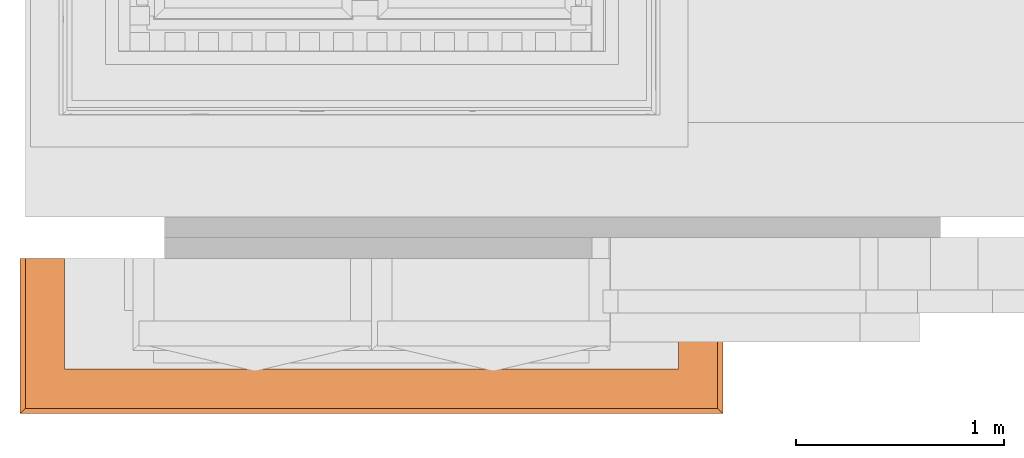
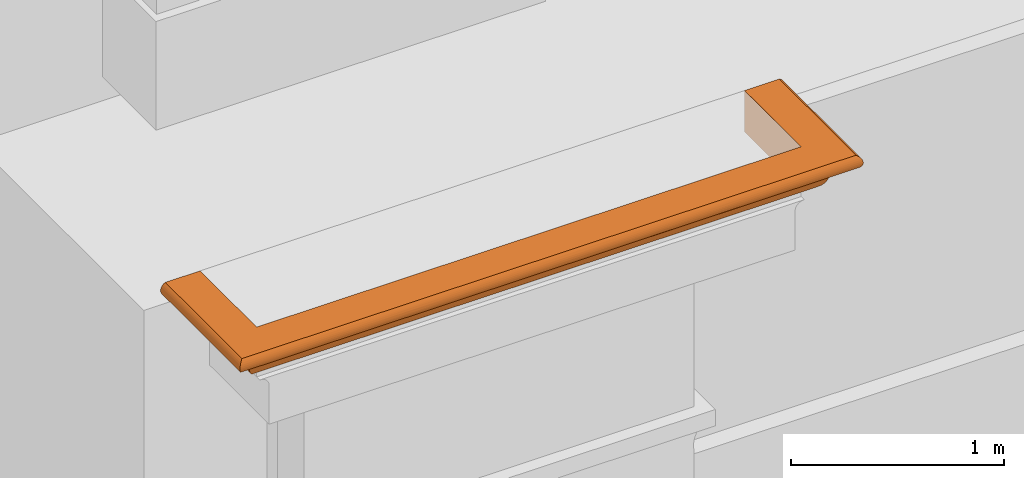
# One storey, part 20 of 44: 1 proxy.
"""IFC2X3 building model written with IfcOpenShell, lengths in metres."""

from ifc_helpers import new_model, entity, si_unit, converted_unit, derived_unit, direction, frame, origin, place, context, subcontext, project, spatial, faceted_brep, material, element, save


model = new_model("IFC2X3")

# Units and contexts
model_context = context("Model", 3, precision=1e-05, world=origin(), true_north=direction((6.12303176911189e-17, 1.0)))
body_context = subcontext(model_context, "Body", "Model", "MODEL_VIEW")
ifc_project = project(units=[si_unit("LENGTHUNIT", "METRE"), si_unit("AREAUNIT", "SQUARE_METRE"), si_unit("VOLUMEUNIT", "CUBIC_METRE"), converted_unit("PLANEANGLEUNIT", "DEGREE", entity("IfcRatioMeasure", 0.0174532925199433), si_unit("PLANEANGLEUNIT", "RADIAN"), dimensions=[0, 0, 0, 0, 0, 0, 0]), si_unit("MASSUNIT", "GRAM", prefix="KILO"), derived_unit("MASSDENSITYUNIT", [(si_unit("MASSUNIT", "GRAM", prefix="KILO"), 1), (si_unit("LENGTHUNIT", "METRE"), -3)]), si_unit("TIMEUNIT", "SECOND"), si_unit("FREQUENCYUNIT", "HERTZ"), si_unit("THERMODYNAMICTEMPERATUREUNIT", "DEGREE_CELSIUS"), derived_unit("THERMALTRANSMITTANCEUNIT", [(si_unit("MASSUNIT", "GRAM", prefix="KILO"), 1), (si_unit("THERMODYNAMICTEMPERATUREUNIT", "KELVIN"), -1), (si_unit("TIMEUNIT", "SECOND"), -3)]), derived_unit("VOLUMETRICFLOWRATEUNIT", [(si_unit("LENGTHUNIT", "METRE"), 3), (si_unit("TIMEUNIT", "SECOND"), -1)]), si_unit("ELECTRICCURRENTUNIT", "AMPERE"), si_unit("ELECTRICVOLTAGEUNIT", "VOLT"), si_unit("POWERUNIT", "WATT"), si_unit("FORCEUNIT", "NEWTON", prefix="KILO"), si_unit("ILLUMINANCEUNIT", "LUX"), si_unit("LUMINOUSFLUXUNIT", "LUMEN"), si_unit("LUMINOUSINTENSITYUNIT", "CANDELA"), derived_unit("USERDEFINED", [(si_unit("MASSUNIT", "GRAM", prefix="KILO"), -1), (si_unit("LENGTHUNIT", "METRE"), -2), (si_unit("TIMEUNIT", "SECOND"), 3), (si_unit("LUMINOUSFLUXUNIT", "LUMEN"), 1)]), derived_unit("LINEARVELOCITYUNIT", [(si_unit("LENGTHUNIT", "METRE"), 1), (si_unit("TIMEUNIT", "SECOND"), -1)]), si_unit("PRESSUREUNIT", "PASCAL"), derived_unit("USERDEFINED", [(si_unit("LENGTHUNIT", "METRE"), -2), (si_unit("MASSUNIT", "GRAM", prefix="KILO"), 1), (si_unit("TIMEUNIT", "SECOND"), -2)])], contexts=[model_context])

# Site, building, storey
site_placement = place(None, origin())
site = spatial("IfcSite", under=ifc_project, at=site_placement, Name="Default", CompositionType="ELEMENT")
building_placement = place(site_placement, origin())
building = spatial("IfcBuilding", under=site, at=building_placement, CompositionType="ELEMENT")
storey_placement = place(building_placement, origin())
storey = spatial("IfcBuildingStorey", under=building, at=storey_placement, Name="Livello 1", CompositionType="ELEMENT", Elevation=0.0)

# Proxy
ifc_material = material(Name="Piperno")
proxy_placement = place(storey_placement, frame((-12.1498368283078, -1.07986931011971, 13.1103778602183)))
element("IfcBuildingElementProxy", 1, at=proxy_placement, inside=storey, material=ifc_material, Name="Stratigrafia", context=body_context, shape_type="Brep", body=[
    faceted_brep([(0.165576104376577, 0.745401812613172, 0.0186018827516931), (0.14545932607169, 0.745401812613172, 0.035910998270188), (0.130346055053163, 0.745401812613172, 0.0577256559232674), (0.121209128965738, 0.745401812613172, 0.0826416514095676), (0.112072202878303, 0.745401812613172, 0.107557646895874), (0.0969589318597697, 0.745401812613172, 0.129372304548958), (0.0768421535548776, 0.745401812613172, 0.146681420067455), (0.0530167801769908, 0.745401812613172, 0.158370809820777), (0.0270164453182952, 0.745401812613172, 0.163688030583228), (0.0185949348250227, 0.745401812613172, 0.168211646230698), (0.0114870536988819, 0.745401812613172, 0.174604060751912), (0.00609865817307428, 0.745401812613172, 0.182500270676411), (0.00273742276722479, 0.745401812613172, 0.19144940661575), (0.0015952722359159, 0.745401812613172, 0.200940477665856), (0.00273742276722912, 0.745401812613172, 0.210431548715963), (0.00609865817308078, 0.745401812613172, 0.219380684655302), (0.0114870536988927, 0.745401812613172, 0.227276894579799), (0.0185949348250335, 0.745401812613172, 0.233669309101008), (0.0270164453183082, 0.745401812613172, 0.238192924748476), (0.21540181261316, 0.745401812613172, 0.238192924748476), (0.215401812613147, 0.745401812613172, 0.0015952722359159), (0.18940147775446, 0.745401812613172, 0.00691249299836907), (3.18620224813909, 0.745401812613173, 0.00691249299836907), (3.1602019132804, 0.745401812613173, 0.0015952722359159), (3.16020191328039, 0.745401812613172, 0.238192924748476), (3.34858728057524, 0.745401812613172, 0.238192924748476), (3.35700879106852, 0.745401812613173, 0.233669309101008), (3.36411667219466, 0.745401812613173, 0.227276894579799), (3.36950506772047, 0.745401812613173, 0.219380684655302), (3.37286630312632, 0.745401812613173, 0.210431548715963), (3.37400845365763, 0.745401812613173, 0.200940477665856), (3.37286630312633, 0.745401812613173, 0.19144940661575), (3.36950506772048, 0.745401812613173, 0.182500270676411), (3.36411667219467, 0.745401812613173, 0.174604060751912), (3.35700879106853, 0.745401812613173, 0.168211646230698), (3.34858728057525, 0.745401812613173, 0.163688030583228), (3.32258694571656, 0.745401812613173, 0.158370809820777), (3.29876157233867, 0.745401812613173, 0.146681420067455), (3.27864479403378, 0.745401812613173, 0.129372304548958), (3.26353152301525, 0.745401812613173, 0.107557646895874), (3.25439459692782, 0.745401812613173, 0.0826416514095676), (3.24525767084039, 0.745401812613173, 0.0577256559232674), (3.23014439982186, 0.745401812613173, 0.035910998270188), (3.21002762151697, 0.745401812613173, 0.0186018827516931), (0.0185949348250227, 0.0185949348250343, 0.168211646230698), (0.0148493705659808, 0.456874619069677, 0.171194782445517), (0.0208864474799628, 0.414126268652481, 0.166715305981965), (0.00844632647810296, 0.375750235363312, 0.178552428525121), (0.011487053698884, 0.0114870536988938, 0.174604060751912), (0.00609865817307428, 0.00609865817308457, 0.182500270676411), (0.0270164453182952, 0.524551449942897, 0.163688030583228), (0.0270164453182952, 0.303701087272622, 0.163688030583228), (0.00187803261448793, 0.284951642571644, 0.205688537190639), (0.00273742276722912, 0.00273742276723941, 0.210431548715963), (0.00412581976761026, 0.209841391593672, 0.214942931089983), (0.00188183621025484, 0.374069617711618, 0.196160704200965), (0.00411708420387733, 0.284986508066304, 0.186961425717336), (0.00273742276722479, 0.00273742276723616, 0.19144940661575), (0.0270164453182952, 0.0270164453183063, 0.163688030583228), (0.0015952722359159, 0.00159527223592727, 0.200940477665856), (0.00414977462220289, 0.541490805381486, 0.186874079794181), (0.0114870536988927, 0.011487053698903, 0.227276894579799), (0.0185949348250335, 0.0185949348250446, 0.233669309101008), (0.0148493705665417, 0.456874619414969, 0.230686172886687), (0.0208864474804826, 0.414126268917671, 0.235165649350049), (0.0270164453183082, 0.30370108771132, 0.238192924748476), (0.00188183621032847, 0.541480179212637, 0.205720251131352), (0.00844632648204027, 0.375750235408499, 0.223328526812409), (0.00609865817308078, 0.0060986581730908, 0.219380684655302), (0.00414977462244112, 0.467572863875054, 0.215006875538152), (0.0270164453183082, 0.524551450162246, 0.238192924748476), (0.0270164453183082, 0.0270164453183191, 0.238192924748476), (0.415713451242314, 0.0270164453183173, 0.238192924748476), (0.804400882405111, 0.0270164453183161, 0.238192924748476), (1.19308831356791, 0.0270164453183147, 0.238192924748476), (1.58178531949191, 0.0270164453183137, 0.238192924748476), (2.02348820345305, 0.0270164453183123, 0.238192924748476), (2.24433964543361, 0.0270164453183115, 0.238192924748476), (2.46519108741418, 0.0270164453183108, 0.238192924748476), (2.90689397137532, 0.0270164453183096, 0.238192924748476), (3.12774541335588, 0.0270164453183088, 0.238192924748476), (3.34858728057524, 0.0270164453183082, 0.238192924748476), (3.34858728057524, 0.38620912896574, 0.238192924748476), (3.16020191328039, 0.21540181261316, 0.238192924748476), (0.21540181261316, 0.21540181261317, 0.238192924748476), (0.215401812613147, 0.215401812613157, 0.0015952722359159), (0.18940147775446, 0.18940147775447, 0.00691249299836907), (0.165576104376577, 0.165576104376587, 0.0186018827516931), (0.14545932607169, 0.1454593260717, 0.035910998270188), (0.130346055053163, 0.130346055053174, 0.0577256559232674), (0.121209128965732, 0.121209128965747, 0.0826416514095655), (0.112072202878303, 0.112072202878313, 0.107557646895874), (0.0969589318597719, 0.0969589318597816, 0.129372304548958), (0.0768421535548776, 0.076842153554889, 0.146681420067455), (0.0530167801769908, 0.0530167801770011, 0.158370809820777), (0.508833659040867, 0.0206494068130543, 0.235021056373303), (0.254203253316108, 0.0147246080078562, 0.230573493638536), (0.539549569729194, 0.0145763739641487, 0.230438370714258), (2.79796429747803, 0.0145566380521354, 0.230420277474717), (2.75036000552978, 0.0210353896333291, 0.235255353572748), (2.49908268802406, 0.0164633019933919, 0.232062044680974), (3.37286630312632, 0.00273742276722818, 0.210431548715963), (3.36950506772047, 0.00609865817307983, 0.219380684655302), (3.13720502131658, 0.00412249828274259, 0.214934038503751), (0.260278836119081, 0.0211954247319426, 0.23535075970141), (1.5356934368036, 0.00180711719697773, 0.205052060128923), (1.24620172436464, 0.00203099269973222, 0.206828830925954), (1.44294342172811, 0.00186272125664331, 0.196322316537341), (3.10102620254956, 0.00187817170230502, 0.196191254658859), (3.37286630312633, 0.00273742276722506, 0.19144940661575), (3.37400845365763, 0.00159527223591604, 0.200940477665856), (0.288359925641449, 0.00847240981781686, 0.223367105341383), (0.637185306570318, 0.00719866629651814, 0.221359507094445), (3.04043173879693, 0.00845843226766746, 0.22334644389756), (2.85618743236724, 0.00408992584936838, 0.214846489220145), (0.871455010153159, 0.00359334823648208, 0.213425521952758), (0.988475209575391, 0.0082647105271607, 0.223057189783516), (3.11532488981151, 0.0211954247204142, 0.166530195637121), (3.35700879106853, 0.0185949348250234, 0.168211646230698), (3.12140047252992, 0.0147246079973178, 0.171307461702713), (2.38712851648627, 0.0082647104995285, 0.178823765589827), (2.73517018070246, 0.00743205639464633, 0.180133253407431), (2.51868391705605, 0.00389578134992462, 0.187569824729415), (2.98442469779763, 0.00410476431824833, 0.18699450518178), (3.36950506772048, 0.00609865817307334, 0.182500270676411), (0.27481159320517, 0.014713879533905, 0.171317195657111), (0.358291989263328, 0.0206619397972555, 0.166852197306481), (0.577639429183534, 0.0145566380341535, 0.171460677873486), (0.613079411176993, 0.00922003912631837, 0.177447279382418), (0.958215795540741, 0.0161108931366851, 0.17010688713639), (0.954239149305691, 0.00841953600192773, 0.178592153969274), (3.04717362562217, 0.00187745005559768, 0.205683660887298), (0.364143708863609, 0.00187697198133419, 0.196201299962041), (0.281518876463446, 0.00187807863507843, 0.205688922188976), (3.36411667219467, 0.0114870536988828, 0.174604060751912), (2.71018980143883, 0.00820855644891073, 0.222972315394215), (0.353330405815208, 0.00845301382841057, 0.178542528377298), (2.86677006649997, 0.0206494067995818, 0.166859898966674), (2.95989568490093, 0.0270164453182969, 0.163688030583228), (1.34393125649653, 0.00757258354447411, 0.2219767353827), (1.15446330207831, 0.00412650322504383, 0.214944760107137), (1.25458926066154, 0.0188476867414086, 0.168035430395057), (0.91041770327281, 0.0270164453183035, 0.16368803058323), (1.33069501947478, 0.0270164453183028, 0.163688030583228), (1.35211930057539, 0.0270164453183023, 0.163688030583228), (0.280348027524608, 0.00411762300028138, 0.186959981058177), (3.36411667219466, 0.0114870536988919, 0.227276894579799), (3.35700879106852, 0.0185949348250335, 0.233669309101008), (3.1007921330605, 0.0147138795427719, 0.230563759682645), (3.0173117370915, 0.0206619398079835, 0.235028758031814), (0.61023537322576, 0.001873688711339, 0.205652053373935), (0.36643025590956, 0.00410763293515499, 0.214894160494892), (2.21741459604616, 0.0134998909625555, 0.229414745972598), (2.13391028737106, 0.0199395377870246, 0.234574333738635), (1.86376227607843, 0.0143280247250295, 0.230208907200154), (2.83605415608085, 0.0145763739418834, 0.171442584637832), (3.08125852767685, 0.00847062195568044, 0.178516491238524), (2.19639913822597, 0.0077403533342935, 0.222245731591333), (2.4562954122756, 0.0104212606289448, 0.226006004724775), (0.247866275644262, 0.0270164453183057, 0.163688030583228), (1.95383243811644, 0.0034367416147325, 0.188942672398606), (2.26495117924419, 0.0016613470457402, 0.198642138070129), (1.84134344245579, 0.00160233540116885, 0.201692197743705), (1.85373658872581, 0.0119018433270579, 0.174137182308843), (2.06890774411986, 0.00724378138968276, 0.180445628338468), (1.74859498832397, 0.00645401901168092, 0.181831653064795), (0.625243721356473, 0.0210353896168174, 0.166625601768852), (2.57120215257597, 0.0270164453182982, 0.16368803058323), (2.55986101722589, 0.0184019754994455, 0.168348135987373), (0.815742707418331, 0.018401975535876, 0.233532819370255), (2.58770725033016, 0.00357150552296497, 0.21335883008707), (2.31818451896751, 0.00402813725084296, 0.214678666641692), (2.44912090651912, 0.00195582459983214, 0.206299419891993), (2.75052138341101, 0.00425995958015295, 0.186584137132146), (0.677981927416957, 0.00187232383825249, 0.196240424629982), (0.61946039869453, 0.00389627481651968, 0.214312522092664), (2.17397324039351, 0.0129895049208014, 0.172979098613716), (0.928305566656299, 0.00237185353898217, 0.193096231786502), (0.748324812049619, 0.0040635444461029, 0.187105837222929), (1.00954611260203, 0.00463583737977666, 0.1856422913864), (0.515520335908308, 0.00539589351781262, 0.183921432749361), (3.34858728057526, 0.0270164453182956, 0.163688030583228), (2.7479065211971, 0.00188828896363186, 0.205773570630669), (2.7051346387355, 0.00187288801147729, 0.196235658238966), (2.58331762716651, 0.0120130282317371, 0.174014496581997), (0.792286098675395, 0.012013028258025, 0.227866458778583), (1.02479486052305, 0.0015954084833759, 0.200836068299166), (1.655734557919, 0.00313618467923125, 0.189944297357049), (1.19722641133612, 0.0129724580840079, 0.228884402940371), (1.3748608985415, 0.0195334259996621, 0.234309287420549), (1.09269001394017, 0.0198029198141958, 0.234485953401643), (1.51752183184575, 0.0125558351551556, 0.228451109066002), (1.7765417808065, 0.00663304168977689, 0.220374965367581), (2.23258783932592, 0.00411216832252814, 0.186974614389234), (1.50356677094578, 0.00640533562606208, 0.181921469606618), (1.28668522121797, 0.00487355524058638, 0.185080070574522), (2.14071393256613, 0.00209473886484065, 0.207242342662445), (2.02123165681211, 0.00438171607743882, 0.215609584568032), (1.57296898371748, 0.0182235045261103, 0.168475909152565), (1.79381896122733, 0.0270164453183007, 0.163688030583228), (2.27519771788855, 0.0193367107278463, 0.167702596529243), (1.742246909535, 0.00303623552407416, 0.211580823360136), (2.48701995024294, 0.00628088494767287, 0.219727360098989), (1.86665862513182, 0.0209526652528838, 0.2352056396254), (1.630402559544, 0.0180244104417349, 0.233260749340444), (0.468716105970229, 0.0270164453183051, 0.163688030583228), (0.741230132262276, 0.0270164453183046, 0.163688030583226), (1.28671334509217, 0.0116142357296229, 0.174459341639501), (1.9881653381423, 0.0192670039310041, 0.167749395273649), (1.57190605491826, 0.0104060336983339, 0.175893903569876), (1.18701847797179, 0.00211732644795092, 0.194498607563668), (2.63437359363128, 0.0270164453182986, 0.163688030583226), (1.92012416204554, 0.0270164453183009, 0.163688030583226), (2.18251055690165, 0.0270164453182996, 0.163688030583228), (1.43816230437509, 0.00363085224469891, 0.213539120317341), (3.16020191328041, 0.215401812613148, 0.0015952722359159), (2.80308951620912, 0.215401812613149, 0.0015952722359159), (2.44597711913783, 0.21540181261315, 0.0015952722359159), (1.73175232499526, 0.215401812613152, 0.0015952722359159), (1.33068946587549, 0.215401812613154, 0.00159527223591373), (0.92962660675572, 0.215401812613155, 0.0015952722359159), (0.572514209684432, 0.215401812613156, 0.00159527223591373), (0.495431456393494, 0.176484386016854, 0.0123113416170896), (1.08326687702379, 0.127682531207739, 0.0632484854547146), (0.870624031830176, 0.136625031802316, 0.0471875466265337), (1.32114444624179, 0.138710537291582, 0.0442247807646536), (1.46453880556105, 0.153126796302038, 0.0282367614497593), (1.77540575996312, 0.137444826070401, 0.0459967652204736), (3.23014439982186, 0.145459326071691, 0.035910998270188), (2.83069585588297, 0.136883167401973, 0.0468087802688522), (2.65743650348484, 0.15417112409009, 0.0273072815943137), (2.14134136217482, 0.196956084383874, 0.00464810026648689), (2.62453332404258, 0.195607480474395, 0.00500711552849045), (1.05959934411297, 0.1492880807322, 0.0318798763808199), (3.24525767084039, 0.130346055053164, 0.0577256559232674), (3.25439459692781, 0.121209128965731, 0.0826416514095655), (2.89728207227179, 0.121209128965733, 0.0826416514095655), (0.47832165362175, 0.12120912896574, 0.0826416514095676), (1.74960590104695, 0.196208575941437, 0.00484471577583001), (1.50945906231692, 0.128044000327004, 0.0624482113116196), (0.455509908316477, 0.136954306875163, 0.0467050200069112), (0.663796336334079, 0.154247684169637, 0.0272401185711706), (2.08624368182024, 0.153127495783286, 0.0282361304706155), (2.26762525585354, 0.175272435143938, 0.0129259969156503), (3.21002762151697, 0.165576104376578, 0.0186018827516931), (3.18620224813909, 0.18940147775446, 0.00691249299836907), (1.63001454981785, 0.178771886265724, 0.0112043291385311), (2.71872600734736, 0.127113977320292, 0.0645449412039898), (2.3437681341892, 0.136497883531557, 0.0473754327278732), (2.77126138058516, 0.176268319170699, 0.0124194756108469), (0.751070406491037, 0.195160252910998, 0.00513044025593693), (1.23044134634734, 0.192341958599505, 0.00595712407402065), (0.91080229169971, 0.17566168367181, 0.0127264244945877), (2.28982928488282, 0.126474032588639, 0.0660643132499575), (1.90445279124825, 0.128205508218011, 0.0620963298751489), (1.82594513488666, 0.121209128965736, 0.0826416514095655), (1.54965422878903, 0.121209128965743, 0.0826416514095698), (1.33068965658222, 0.121209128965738, 0.0826416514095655), (2.54016986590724, 0.121209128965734, 0.0826416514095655), (2.04491590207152, 0.121209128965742, 0.0826416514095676), (0.656877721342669, 0.127441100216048, 0.0637931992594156), (0.835433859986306, 0.121209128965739, 0.0826416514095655), (1.79728647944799, 0.114670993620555, 0.102179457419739), (0.52431027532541, 0.0868285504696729, 0.139199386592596), (2.02338906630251, 0.0554882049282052, 0.157492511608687), (1.52868842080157, 0.0792407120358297, 0.145050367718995), (2.02446070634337, 0.0856392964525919, 0.140191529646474), (0.551861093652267, 0.115499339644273, 0.100282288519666), (0.471231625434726, 0.0448151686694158, 0.160800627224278), (0.696569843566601, 0.104733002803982, 0.119629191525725), (2.59105159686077, 0.0638631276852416, 0.153977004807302), (2.39429896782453, 0.0923359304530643, 0.134187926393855), (2.77667449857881, 0.0867218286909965, 0.139289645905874), (2.46243049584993, 0.0454785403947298, 0.160630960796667), (2.87562943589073, 0.0465970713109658, 0.160334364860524), (0.655615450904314, 0.064121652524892, 0.153854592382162), (1.06135838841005, 0.0648057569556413, 0.153526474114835), (0.915755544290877, 0.0471767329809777, 0.160175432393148), (2.7313839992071, 0.114786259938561, 0.101921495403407), (3.27864479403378, 0.0969589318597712, 0.129372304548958), (3.29876157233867, 0.0768421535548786, 0.146681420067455), (2.55004153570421, 0.104628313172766, 0.119777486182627), (3.26353152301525, 0.112072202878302, 0.107557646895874), (1.41843965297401, 0.115757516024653, 0.09966924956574), (1.04114340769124, 0.11392131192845, 0.10381340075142), (1.03692383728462, 0.0860929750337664, 0.139816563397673), (3.32258694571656, 0.0530167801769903, 0.158370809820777), (2.28017180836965, 0.11452395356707, 0.102505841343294), (1.08782502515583, 0.100504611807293, 0.125221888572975), (1.42779050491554, 0.0568212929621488, 0.156989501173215), (1.57424152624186, 0.094762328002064, 0.131737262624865), (1.91464480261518, 0.102383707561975, 0.122832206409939), (1.44207505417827, 0.106880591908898, 0.116459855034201), (3.35473283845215, 0.414126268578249, 0.166724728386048), (3.34858728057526, 0.303701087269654, 0.163688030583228), (3.34858728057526, 0.524551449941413, 0.163688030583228), (3.36075435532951, 0.462903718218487, 0.171194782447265), (3.36704757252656, 0.378444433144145, 0.178390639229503), (3.37148675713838, 0.28598047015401, 0.186961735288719), (3.37145395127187, 0.542044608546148, 0.186874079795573), (3.3737268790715, 0.373498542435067, 0.19620234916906), (3.37372188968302, 0.4628855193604, 0.205720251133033), (3.36075435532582, 0.381998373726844, 0.230686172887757), (3.36704757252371, 0.463712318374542, 0.22349031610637), (3.37372463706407, 0.206236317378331, 0.205697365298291), (3.37145395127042, 0.375750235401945, 0.215006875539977), (3.36710777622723, 0.209620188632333, 0.223401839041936), (3.35498128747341, 0.267405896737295, 0.235004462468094), (3.3544696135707, 0.51611751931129, 0.235314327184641)], [[[0, 1, 2, 3, 4, 5, 6, 7, 8, 9, 10, 11, 12, 13, 14, 15, 16, 17, 18, 19, 20, 21]], [[22, 23, 24, 25, 26, 27, 28, 29, 30, 31, 32, 33, 34, 35, 36, 37, 38, 39, 40, 41, 42, 43]], [[44, 45, 46]], [[9, 46, 45]], [[47, 48, 49]], [[46, 50, 51]], [[52, 53, 54]], [[47, 10, 45]], [[44, 46, 51]], [[55, 56, 57]], [[51, 58, 44]], [[9, 8, 50]], [[10, 9, 45]], [[59, 55, 57]], [[47, 56, 60]], [[12, 11, 60]], [[61, 62, 63]], [[10, 47, 11]], [[55, 13, 12]], [[56, 49, 57]], [[52, 59, 53]], [[64, 62, 65]], [[66, 55, 52]], [[13, 66, 14]], [[67, 68, 61]], [[47, 49, 56]], [[60, 55, 12]], [[54, 67, 69]], [[53, 68, 54]], [[50, 46, 9]], [[16, 15, 67]], [[15, 69, 67]], [[16, 67, 63]], [[48, 47, 45]], [[64, 65, 70]], [[16, 63, 17]], [[61, 63, 67]], [[48, 45, 44]], [[18, 17, 70]], [[71, 65, 62]], [[64, 17, 63]], [[59, 52, 55]], [[66, 69, 14]], [[69, 15, 14]], [[17, 64, 70]], [[62, 64, 63]], [[47, 60, 11]], [[55, 60, 56]], [[55, 66, 13]], [[69, 66, 52]], [[67, 54, 68]], [[52, 54, 69]], [[19, 18, 70, 65, 71, 72, 73, 74, 75, 76, 77, 78, 79, 80, 81, 82, 25, 24, 83, 84]], [[20, 19, 84, 85]], [[21, 20, 85, 86]], [[0, 21, 86, 87]], [[87, 88, 1, 0]], [[2, 1, 88, 89]], [[3, 2, 89, 90, 91, 4]], [[5, 4, 91, 92]], [[92, 93, 6, 5]], [[7, 6, 93, 94]], [[8, 7, 94, 58, 51, 50]], [[95, 96, 97]], [[98, 99, 100]], [[101, 102, 103]], [[95, 72, 104]], [[105, 106, 107]], [[108, 109, 110]], [[111, 112, 97]], [[113, 114, 103]], [[112, 115, 116]], [[117, 118, 119]], [[120, 121, 122]], [[123, 124, 109]], [[125, 126, 127]], [[128, 129, 130]], [[131, 108, 110]], [[96, 62, 61]], [[44, 125, 48]], [[132, 133, 59]], [[118, 134, 119]], [[135, 114, 113]], [[48, 125, 136]], [[137, 138, 117]], [[139, 116, 140]], [[141, 142, 143, 144]], [[57, 49, 145]], [[146, 147, 148]], [[101, 103, 131]], [[62, 96, 104]], [[148, 149, 98]], [[133, 150, 151]], [[147, 81, 80]], [[59, 133, 53]], [[53, 151, 68]], [[57, 132, 59]], [[152, 153, 154]], [[155, 156, 121]], [[157, 158, 152]], [[115, 106, 140]], [[44, 58, 159]], [[101, 131, 110]], [[160, 161, 162]], [[163, 164, 165]], [[166, 129, 127]], [[48, 136, 49]], [[156, 124, 123]], [[167, 137, 168]], [[111, 68, 151]], [[73, 95, 169]], [[102, 146, 113]], [[170, 171, 172]], [[122, 121, 173]], [[124, 156, 134]], [[145, 49, 136]], [[174, 150, 132]], [[175, 112, 151]], [[68, 111, 61]], [[176, 164, 163]], [[177, 178, 179]], [[136, 128, 180]], [[98, 149, 99]], [[127, 126, 166]], [[180, 132, 145]], [[148, 113, 146]], [[118, 117, 181]], [[62, 104, 71]], [[135, 113, 98]], [[114, 170, 182]], [[108, 183, 123]], [[121, 156, 123]], [[119, 156, 155]], [[173, 183, 122]], [[121, 120, 184]], [[150, 133, 132]], [[151, 53, 133]], [[112, 111, 151]], [[96, 111, 97]], [[175, 150, 115]], [[112, 116, 185]], [[186, 115, 150]], [[186, 106, 115]], [[107, 187, 162]], [[188, 189, 190]], [[174, 186, 150]], [[186, 174, 177]], [[180, 145, 136]], [[132, 57, 145]], [[154, 191, 192]], [[98, 158, 135]], [[183, 108, 131]], [[123, 109, 108]], [[153, 100, 78]], [[154, 192, 157]], [[161, 160, 193]], [[164, 193, 160]], [[122, 183, 161]], [[194, 187, 195]], [[171, 196, 172]], [[197, 171, 157]], [[198, 144, 199]], [[200, 184, 176]], [[80, 149, 147]], [[113, 148, 98]], [[159, 126, 44]], [[136, 125, 127]], [[196, 171, 197]], [[162, 201, 105]], [[156, 119, 134]], [[137, 117, 119]], [[111, 96, 61]], [[95, 104, 96]], [[98, 100, 158]], [[158, 202, 135]], [[149, 80, 79]], [[149, 79, 99]], [[147, 149, 148]], [[79, 78, 99]], [[203, 204, 154]], [[78, 100, 99]], [[100, 152, 158]], [[153, 78, 77, 76]], [[203, 154, 153]], [[100, 153, 152]], [[153, 76, 203]], [[139, 192, 191]], [[192, 201, 197]], [[171, 202, 157]], [[76, 75, 203]], [[75, 189, 204]], [[126, 159, 205]], [[126, 205, 166]], [[44, 126, 125]], [[166, 205, 206, 142]], [[129, 207, 130]], [[166, 142, 129]], [[198, 199, 208]], [[129, 141, 207]], [[195, 130, 207]], [[180, 128, 178]], [[209, 163, 165]], [[186, 177, 210]], [[137, 119, 155]], [[181, 117, 138]], [[168, 137, 155]], [[137, 167, 211, 138]], [[155, 184, 168]], [[208, 199, 212, 213]], [[176, 163, 208]], [[167, 168, 200]], [[71, 104, 72]], [[169, 95, 97]], [[73, 72, 95]], [[97, 185, 169]], [[190, 189, 74]], [[116, 139, 188]], [[73, 169, 190]], [[170, 202, 171]], [[154, 157, 152]], [[197, 157, 192]], [[201, 192, 214]], [[196, 161, 172]], [[105, 201, 214]], [[196, 201, 162]], [[201, 196, 197]], [[162, 161, 196]], [[161, 183, 172]], [[131, 114, 182]], [[106, 105, 214]], [[162, 105, 107]], [[106, 214, 140]], [[106, 186, 210]], [[139, 140, 214]], [[116, 115, 140]], [[192, 139, 214]], [[139, 191, 188]], [[188, 191, 189]], [[185, 188, 169]], [[204, 189, 191]], [[75, 74, 189]], [[113, 103, 102]], [[131, 103, 114]], [[209, 198, 163]], [[141, 198, 207]], [[200, 168, 184]], [[198, 208, 163]], [[176, 208, 200]], [[164, 176, 120]], [[193, 120, 122]], [[164, 160, 165]], [[187, 165, 160]], [[194, 207, 209]], [[162, 187, 160]], [[195, 187, 107]], [[194, 209, 165]], [[198, 209, 207]], [[170, 172, 182]], [[135, 170, 114]], [[172, 183, 182]], [[183, 131, 182]], [[135, 202, 170]], [[157, 202, 158]], [[208, 213, 200]], [[167, 200, 213]], [[120, 193, 164]], [[161, 193, 122]], [[121, 184, 155]], [[176, 184, 120]], [[112, 185, 97]], [[188, 185, 116]], [[73, 190, 74]], [[188, 190, 169]], [[187, 194, 165]], [[207, 194, 195]], [[142, 141, 129]], [[198, 141, 144]], [[136, 127, 128]], [[180, 178, 174]], [[129, 128, 127]], [[178, 128, 130]], [[154, 204, 191]], [[75, 204, 203]], [[180, 174, 132]], [[174, 178, 177]], [[179, 178, 130]], [[210, 107, 106]], [[130, 195, 179]], [[210, 179, 195]], [[179, 210, 177]], [[195, 107, 210]], [[150, 175, 151]], [[115, 112, 175]], [[121, 123, 173]], [[183, 173, 123]], [[85, 84, 83, 215, 216, 217, 218, 219, 220, 221]], [[87, 86, 222]], [[223, 224, 225]], [[225, 226, 227]], [[228, 229, 230]], [[231, 217, 232]], [[226, 225, 233]], [[234, 235, 236]], [[90, 89, 237]], [[218, 231, 238]], [[223, 225, 239]], [[229, 228, 234]], [[240, 89, 88]], [[241, 88, 87]], [[230, 242, 243]], [[240, 241, 224]], [[228, 230, 244]], [[86, 85, 221]], [[245, 216, 215]], [[217, 216, 232]], [[243, 246, 231]], [[226, 242, 227]], [[229, 247, 248]], [[249, 245, 244]], [[250, 221, 220]], [[251, 252, 250]], [[242, 230, 248]], [[248, 247, 253]], [[249, 230, 243]], [[222, 241, 87]], [[233, 252, 226]], [[230, 249, 244]], [[232, 245, 249]], [[243, 231, 232]], [[245, 232, 216]], [[243, 232, 249]], [[242, 246, 243]], [[218, 217, 231]], [[226, 252, 246]], [[250, 220, 251]], [[227, 242, 248]], [[246, 242, 226]], [[254, 248, 253]], [[239, 255, 256, 257]], [[236, 247, 234]], [[230, 229, 248]], [[247, 236, 258]], [[247, 258, 253]], [[234, 247, 229]], [[253, 258, 259, 255]], [[223, 260, 224]], [[219, 251, 220]], [[221, 250, 86]], [[250, 252, 222]], [[238, 251, 219]], [[238, 219, 218]], [[246, 252, 251]], [[239, 254, 255]], [[233, 224, 241]], [[227, 239, 225]], [[239, 227, 254]], [[261, 260, 223]], [[224, 233, 225]], [[252, 233, 241]], [[248, 254, 227]], [[255, 254, 253]], [[241, 240, 88]], [[260, 89, 240]], [[260, 261, 237]], [[89, 260, 237]], [[240, 224, 260]], [[239, 257, 223]], [[261, 223, 257]], [[250, 222, 86]], [[241, 222, 252]], [[231, 246, 238]], [[251, 238, 246]], [[262, 256, 255, 259]], [[263, 93, 92]], [[264, 265, 266]], [[91, 90, 267]], [[268, 206, 205, 159, 58]], [[92, 91, 269]], [[270, 271, 272]], [[273, 274, 211]], [[275, 94, 93]], [[269, 263, 92]], [[276, 277, 275]], [[278, 258, 236, 235]], [[279, 280, 272]], [[281, 282, 279]], [[283, 284, 261]], [[263, 285, 275]], [[280, 274, 270]], [[276, 285, 265]], [[274, 280, 286]], [[270, 272, 280]], [[278, 287, 258]], [[267, 261, 284]], [[256, 262, 283]], [[275, 268, 94]], [[277, 143, 142, 206]], [[288, 285, 269]], [[269, 91, 267]], [[277, 206, 268]], [[264, 212, 289]], [[265, 285, 290]], [[287, 259, 258]], [[272, 281, 279]], [[281, 272, 271]], [[93, 263, 275]], [[181, 274, 286]], [[285, 263, 269]], [[262, 291, 292]], [[291, 290, 292]], [[262, 259, 287]], [[266, 291, 271]], [[281, 291, 287]], [[262, 287, 291]], [[278, 281, 287]], [[278, 282, 281]], [[282, 278, 235]], [[94, 268, 58]], [[289, 143, 277]], [[289, 212, 199, 144, 143]], [[277, 268, 275]], [[289, 277, 276]], [[289, 276, 265]], [[276, 275, 285]], [[284, 288, 269]], [[267, 90, 237, 261]], [[267, 284, 269]], [[262, 292, 283]], [[273, 211, 167, 213, 212]], [[270, 264, 266]], [[289, 265, 264]], [[290, 291, 266]], [[288, 292, 290]], [[265, 290, 266]], [[285, 288, 290]], [[292, 288, 284]], [[281, 271, 291]], [[266, 271, 270]], [[270, 274, 273]], [[274, 181, 138, 211]], [[273, 264, 270]], [[264, 273, 212]], [[283, 261, 257, 256]], [[283, 292, 284]], [[293, 294, 295]], [[118, 293, 296]], [[33, 32, 297]], [[293, 118, 294]], [[293, 34, 296]], [[33, 296, 34]], [[34, 293, 295]], [[298, 299, 300]], [[124, 297, 298]], [[34, 295, 35]], [[181, 294, 118]], [[30, 29, 301]], [[109, 124, 298]], [[300, 109, 298]], [[296, 134, 118]], [[27, 302, 303]], [[124, 134, 297]], [[109, 300, 110]], [[32, 31, 299]], [[31, 30, 300]], [[300, 304, 110]], [[305, 29, 28]], [[306, 302, 146]], [[302, 27, 26]], [[304, 305, 101]], [[29, 305, 301]], [[28, 27, 303]], [[82, 307, 308]], [[308, 25, 82]], [[30, 301, 300]], [[304, 101, 110]], [[307, 81, 147]], [[300, 301, 304]], [[303, 306, 305]], [[306, 146, 102]], [[33, 297, 296]], [[302, 307, 147]], [[146, 302, 147]], [[297, 32, 299]], [[305, 28, 303]], [[134, 296, 297]], [[101, 305, 102]], [[305, 304, 301]], [[300, 299, 31]], [[297, 299, 298]], [[305, 306, 102]], [[302, 306, 303]], [[308, 302, 26]], [[81, 307, 82]], [[302, 308, 307]], [[25, 308, 26]], [[215, 83, 24, 23]], [[22, 43, 244, 245]], [[23, 22, 245, 215]], [[43, 42, 228, 244]], [[228, 42, 41, 234]], [[234, 41, 40, 39, 282, 235]], [[38, 279, 282, 39]], [[38, 37, 280, 279]], [[286, 36, 35, 295, 294, 181]], [[36, 286, 280, 37]]]),
])

save(model, "model.ifc")
